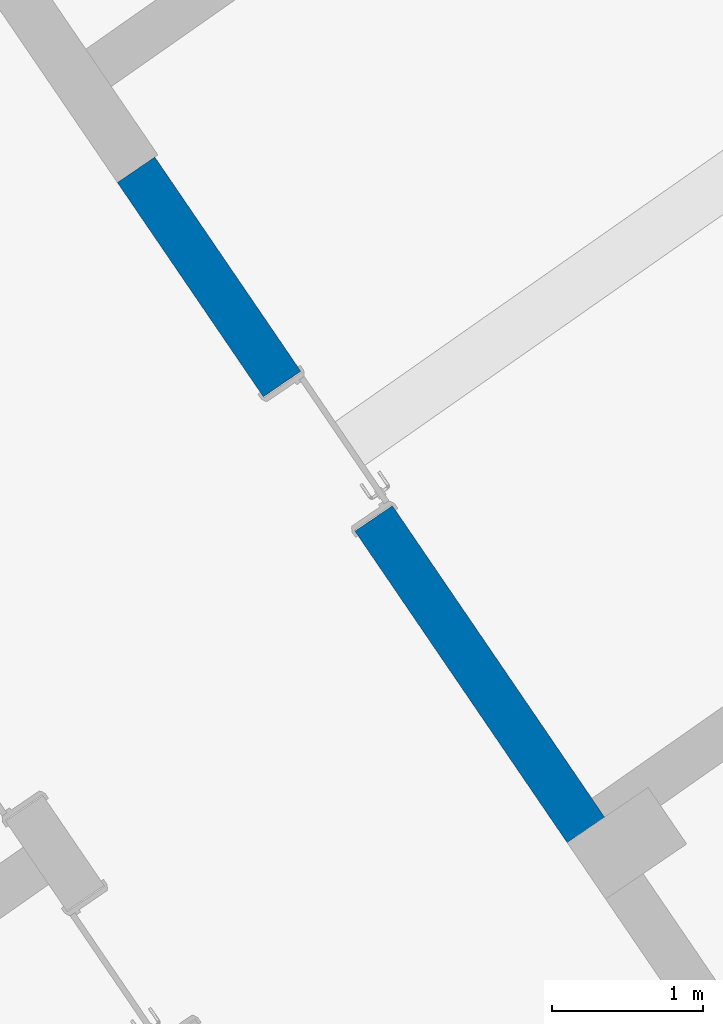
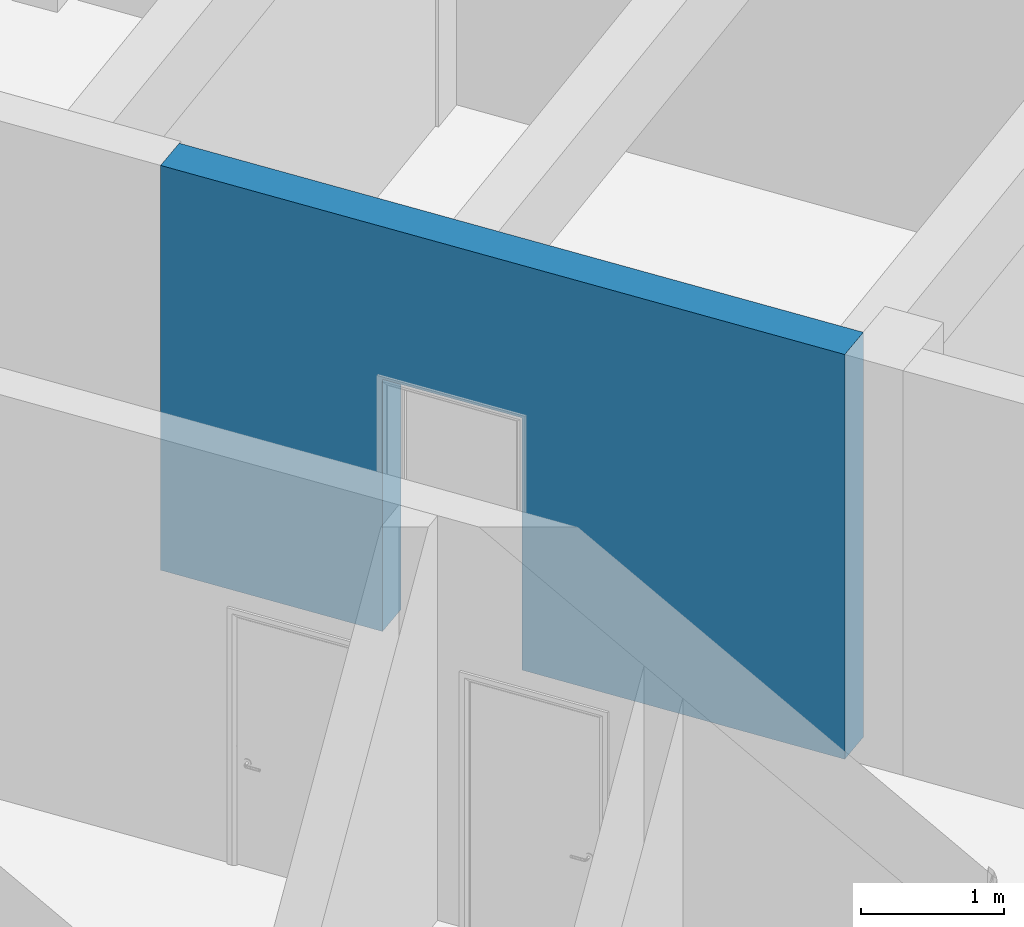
# One storey, part 37 of 112: 1 wall, 1 opening.
"""IFC2X3 building model written with IfcOpenShell, lengths in millimetres."""

from ifc_helpers import new_model, entity, si_unit, converted_unit, derived_unit, direction, frame, frame_2d, origin, place, context, subcontext, project, spatial, rectangle, extrude, material, layer, layer_set, layer_usage, type_object, element, save


model = new_model("IFC2X3")

# Units and contexts
model_context = context("Model", 3, precision=0.01, world=origin(), true_north=direction((6.123031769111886e-17, 1.0)))
body_context = subcontext(model_context, "Body", "Model", "MODEL_VIEW")
ifc_project = project(units=[si_unit("LENGTHUNIT", "METRE", prefix="MILLI"), si_unit("AREAUNIT", "SQUARE_METRE"), si_unit("VOLUMEUNIT", "CUBIC_METRE"), converted_unit("PLANEANGLEUNIT", "DEGREE", entity("IfcRatioMeasure", 0.017453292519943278), si_unit("PLANEANGLEUNIT", "RADIAN"), dimensions=[0, 0, 0, 0, 0, 0, 0]), si_unit("MASSUNIT", "GRAM", prefix="KILO"), derived_unit("MASSDENSITYUNIT", [(si_unit("MASSUNIT", "GRAM", prefix="KILO"), 1), (si_unit("LENGTHUNIT", "METRE"), -3)]), derived_unit("MOMENTOFINERTIAUNIT", [(si_unit("LENGTHUNIT", "METRE"), 4)]), si_unit("TIMEUNIT", "SECOND"), si_unit("FREQUENCYUNIT", "HERTZ"), si_unit("THERMODYNAMICTEMPERATUREUNIT", "DEGREE_CELSIUS"), derived_unit("THERMALTRANSMITTANCEUNIT", [(si_unit("MASSUNIT", "GRAM", prefix="KILO"), 1), (si_unit("THERMODYNAMICTEMPERATUREUNIT", "KELVIN"), -1), (si_unit("TIMEUNIT", "SECOND"), -3)]), derived_unit("THERMALCONDUCTANCEUNIT", [(si_unit("MASSUNIT", "GRAM", prefix="KILO"), 1), (si_unit("LENGTHUNIT", "METRE"), 1), (si_unit("THERMODYNAMICTEMPERATUREUNIT", "KELVIN"), -1), (si_unit("TIMEUNIT", "SECOND"), -3)]), derived_unit("VOLUMETRICFLOWRATEUNIT", [(si_unit("LENGTHUNIT", "METRE"), 3), (si_unit("TIMEUNIT", "SECOND"), -1)]), derived_unit("MASSFLOWRATEUNIT", [(si_unit("MASSUNIT", "GRAM", prefix="KILO"), 1), (si_unit("TIMEUNIT", "SECOND"), -1)]), derived_unit("ROTATIONALFREQUENCYUNIT", [(si_unit("TIMEUNIT", "SECOND"), -1)]), si_unit("ELECTRICCURRENTUNIT", "AMPERE"), si_unit("ELECTRICVOLTAGEUNIT", "VOLT"), si_unit("POWERUNIT", "WATT"), converted_unit("FORCEUNIT", "KIP", entity("IfcRatioMeasure", 2.088543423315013e-05), si_unit("FORCEUNIT", "NEWTON"), dimensions=[1, 1, -2, 0, 0, 0, 0]), si_unit("ILLUMINANCEUNIT", "LUX"), si_unit("LUMINOUSFLUXUNIT", "LUMEN"), si_unit("LUMINOUSINTENSITYUNIT", "CANDELA"), derived_unit("USERDEFINED", [(si_unit("MASSUNIT", "GRAM", prefix="KILO"), -1), (si_unit("LENGTHUNIT", "METRE"), -2), (si_unit("TIMEUNIT", "SECOND"), 3), (si_unit("LUMINOUSFLUXUNIT", "LUMEN"), 1)]), derived_unit("USERDEFINED", [(si_unit("MASSUNIT", "GRAM", prefix="KILO"), 1), (si_unit("LENGTHUNIT", "METRE"), 3), (si_unit("TIMEUNIT", "SECOND"), -3), (si_unit("ELECTRICCURRENTUNIT", "AMPERE"), -2)]), derived_unit("USERDEFINED", [(si_unit("LENGTHUNIT", "METRE"), 2), (si_unit("TIMEUNIT", "SECOND"), -2)]), derived_unit("SOUNDPOWERUNIT", [(si_unit("MASSUNIT", "GRAM", prefix="KILO"), 1), (si_unit("LENGTHUNIT", "METRE"), 2), (si_unit("TIMEUNIT", "SECOND"), -3)]), derived_unit("SOUNDPRESSUREUNIT", [(si_unit("MASSUNIT", "GRAM", prefix="KILO"), 1), (si_unit("LENGTHUNIT", "METRE"), -1), (si_unit("TIMEUNIT", "SECOND"), -2)]), derived_unit("LINEARVELOCITYUNIT", [(si_unit("LENGTHUNIT", "METRE"), 1), (si_unit("TIMEUNIT", "SECOND"), -1)]), si_unit("PRESSUREUNIT", "PASCAL"), derived_unit("USERDEFINED", [(si_unit("LENGTHUNIT", "METRE"), -2), (si_unit("MASSUNIT", "GRAM", prefix="KILO"), 1), (si_unit("TIMEUNIT", "SECOND"), -2)]), derived_unit("LINEARFORCEUNIT", [(si_unit("MASSUNIT", "GRAM", prefix="KILO"), 1), (si_unit("LENGTHUNIT", "METRE"), 1), (si_unit("TIMEUNIT", "SECOND"), -2), (si_unit("LENGTHUNIT", "METRE"), -1)]), derived_unit("PLANARFORCEUNIT", [(si_unit("MASSUNIT", "GRAM", prefix="KILO"), 1), (si_unit("LENGTHUNIT", "METRE"), 1), (si_unit("TIMEUNIT", "SECOND"), -2), (si_unit("LENGTHUNIT", "METRE"), -2)]), derived_unit("SPECIFICHEATCAPACITYUNIT", [(si_unit("LENGTHUNIT", "METRE"), 2), (si_unit("TIMEUNIT", "SECOND"), -2), (si_unit("THERMODYNAMICTEMPERATUREUNIT", "KELVIN"), -1)]), derived_unit("VAPORPERMEABILITYUNIT", [(si_unit("TIMEUNIT", "SECOND"), 1), (si_unit("LENGTHUNIT", "METRE"), -1)]), derived_unit("DYNAMICVISCOSITYUNIT", [(si_unit("MASSUNIT", "GRAM", prefix="KILO"), 1), (si_unit("LENGTHUNIT", "METRE"), -1), (si_unit("TIMEUNIT", "SECOND"), -1)]), derived_unit("THERMALEXPANSIONCOEFFICIENTUNIT", [(si_unit("THERMODYNAMICTEMPERATUREUNIT", "KELVIN"), -1)])], contexts=[model_context])

# Site, building, storey
site_placement = place(None, frame((0.0, 0.0, 0.0), z_axis=(0.0, 0.0, 1.0), x_axis=(0.8191520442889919, 0.5735764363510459, 0.0)))
site = spatial("IfcSite", under=ifc_project, at=site_placement, Name="Default", CompositionType="ELEMENT")
building_placement = place(site_placement, origin())
building = spatial("IfcBuilding", under=site, at=building_placement, CompositionType="ELEMENT")
storey_placement = place(building_placement, frame((0.0, 0.0, -3600.0)))
storey = spatial("IfcBuildingStorey", under=building, at=storey_placement, Name="0.UG -3.60", CompositionType="ELEMENT", Elevation=-3600.0000000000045)

# Wall, opening
ifc_material = material(Name="Analytical Wall Surface_CJC")
ifc_layer = layer(ifc_material, 300.0)
ifc_layer_set = layer_set([ifc_layer], Name="Basic Wall:Wand_Innen_30")
ifc_layer_usage = layer_usage(ifc_layer_set, "AXIS2", "NEGATIVE", 150.0)
wall_type = type_object("IfcWallType", Name="Basic Wall:Wand_Innen_30", PredefinedType="STANDARD", material=ifc_layer_set)
wall_placement = place(storey_placement, frame((-211023.6752056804, 109696.35891435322, 0.0), z_axis=(0.0, 0.0, 1.0), x_axis=(0.012729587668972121, 0.9999189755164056, 0.0)))
wall = element("IfcWallStandardCase", 1, at=wall_placement, inside=storey, type_object=wall_type, material=ifc_layer_usage, Name="Basic Wall:Wand_Innen_30", ObjectType="Basic Wall:Wand_Innen_30", context=body_context, shape_type="SweptSolid", body=[
    extrude(rectangle(XDim=5302.657322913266, YDim=300.00000000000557, at=frame_2d((2651.328661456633, -1.0999201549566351e-11), x_axis=(-1.0, 0.0))), origin(), (0.0, 0.0, 1.0), 3450.0),
])
opening_placement = place(wall_placement, frame((3582.6573229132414, 150.0, 0.0)))
element("IfcOpeningElement", 2, at=opening_placement, cuts=wall, Name="Doors_IntSgl:100x210:1", ObjectType="Opening", context=body_context, shape_type="SweptSolid", body=[
    extrude(rectangle(XDim=2150.000000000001, YDim=1079.9999999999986, at=frame_2d((1075.0000000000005, 539.9999999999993), x_axis=(1.0, 0.0))), frame((0.0, 0.0, 0.0), z_axis=(0.0, -1.0, 0.0), x_axis=(0.0, 0.0, 1.0)), (0.0, 0.0, 1.0), 299.9999999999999),
])

save(model, "model.ifc")
